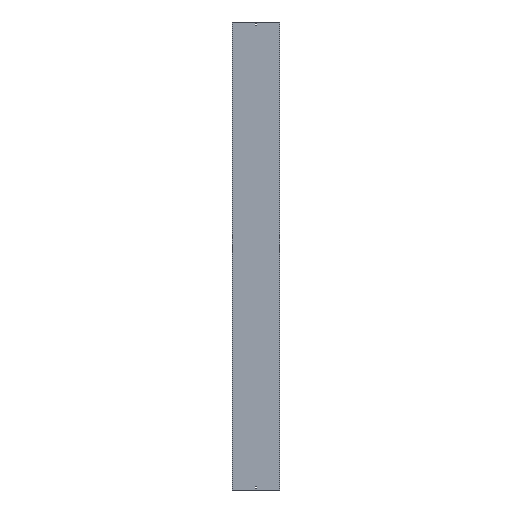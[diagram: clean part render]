
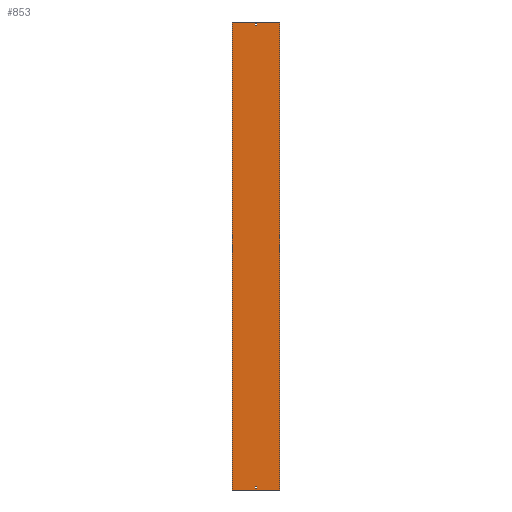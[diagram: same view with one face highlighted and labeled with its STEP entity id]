
A CAD part, front view. The second image highlights one B-rep face of the part: STEP entity #853.
In plain terms, the highlighted planar face has unit normal (0, -1, 0).
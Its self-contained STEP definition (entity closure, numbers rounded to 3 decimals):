
#32 = VERTEX_POINT ( 'NONE', #1611 ) ;
#39 = DIRECTION ( 'NONE',  ( 1., 0., 0. ) ) ;
#41 = VERTEX_POINT ( 'NONE', #81 ) ;
#55 = VECTOR ( 'NONE', #584, 1000. ) ;
#76 = CARTESIAN_POINT ( 'NONE',  ( -152., 0., -1500. ) ) ;
#77 = EDGE_CURVE ( 'NONE', #1106, #32, #1366, .T. ) ;
#81 = CARTESIAN_POINT ( 'NONE',  ( -3.25, 0., 1488. ) ) ;
#101 = DIRECTION ( 'NONE',  ( 0., 0., -1. ) ) ;
#121 = EDGE_CURVE ( 'NONE', #1076, #1117, #347, .T. ) ;
#127 = ORIENTED_EDGE ( 'NONE', *, *, #758, .T. ) ;
#166 = LINE ( 'NONE', #692, #255 ) ;
#184 = LINE ( 'NONE', #854, #1584 ) ;
#185 = FACE_BOUND ( 'NONE', #1478, .T. ) ;
#255 = VECTOR ( 'NONE', #39, 1000. ) ;
#262 = EDGE_CURVE ( 'NONE', #1106, #512, #1159, .T. ) ;
#273 = DIRECTION ( 'NONE',  ( 1., 0., 0. ) ) ;
#288 = VECTOR ( 'NONE', #518, 1000. ) ;
#314 = DIRECTION ( 'NONE',  ( 1., 0., 0. ) ) ;
#319 = FACE_BOUND ( 'NONE', #324, .T. ) ;
#324 = EDGE_LOOP ( 'NONE', ( #494, #485, #1561, #556 ) ) ;
#339 = EDGE_CURVE ( 'NONE', #1232, #679, #166, .T. ) ;
#341 = VERTEX_POINT ( 'NONE', #561 ) ;
#347 = LINE ( 'NONE', #984, #473 ) ;
#369 = ORIENTED_EDGE ( 'NONE', *, *, #77, .T. ) ;
#374 = CARTESIAN_POINT ( 'NONE',  ( 3.25, 0., -1488. ) ) ;
#378 = ORIENTED_EDGE ( 'NONE', *, *, #543, .T. ) ;
#390 = VECTOR ( 'NONE', #847, 1000. ) ;
#414 = CARTESIAN_POINT ( 'NONE',  ( 3.25, 0., -1479. ) ) ;
#470 = VERTEX_POINT ( 'NONE', #1626 ) ;
#473 = VECTOR ( 'NONE', #1514, 1000. ) ;
#478 = EDGE_CURVE ( 'NONE', #512, #470, #1365, .T. ) ;
#485 = ORIENTED_EDGE ( 'NONE', *, *, #1484, .F. ) ;
#494 = ORIENTED_EDGE ( 'NONE', *, *, #1536, .F. ) ;
#512 = VERTEX_POINT ( 'NONE', #707 ) ;
#518 = DIRECTION ( 'NONE',  ( -1., 0., 0. ) ) ;
#525 = CARTESIAN_POINT ( 'NONE',  ( -3.25, 0., -1488. ) ) ;
#543 = EDGE_CURVE ( 'NONE', #679, #574, #1283, .T. ) ;
#556 = ORIENTED_EDGE ( 'NONE', *, *, #121, .F. ) ;
#561 = CARTESIAN_POINT ( 'NONE',  ( -3.25, 0., 1479. ) ) ;
#574 = VERTEX_POINT ( 'NONE', #644 ) ;
#578 = CARTESIAN_POINT ( 'NONE',  ( -3.25, 0., -1479. ) ) ;
#583 = LINE ( 'NONE', #1607, #1531 ) ;
#584 = DIRECTION ( 'NONE',  ( 0., 0., -1. ) ) ;
#589 = LINE ( 'NONE', #1100, #288 ) ;
#590 = DIRECTION ( 'NONE',  ( 0., 0., -1. ) ) ;
#644 = CARTESIAN_POINT ( 'NONE',  ( 3.25, 0., -1488. ) ) ;
#675 = CARTESIAN_POINT ( 'NONE',  ( 3.25, 0., 1488. ) ) ;
#679 = VERTEX_POINT ( 'NONE', #414 ) ;
#687 = AXIS2_PLACEMENT_3D ( 'NONE', #1344, #705, #1482 ) ;
#692 = CARTESIAN_POINT ( 'NONE',  ( -3.25, 0., -1479. ) ) ;
#705 = DIRECTION ( 'NONE',  ( 0., 1., 0. ) ) ;
#707 = CARTESIAN_POINT ( 'NONE',  ( 152., 0., 1500. ) ) ;
#732 = LINE ( 'NONE', #76, #390 ) ;
#735 = LINE ( 'NONE', #983, #928 ) ;
#758 = EDGE_CURVE ( 'NONE', #32, #470, #732, .T. ) ;
#794 = EDGE_CURVE ( 'NONE', #1117, #41, #1244, .T. ) ;
#830 = PLANE ( 'NONE',  #687 ) ;
#847 = DIRECTION ( 'NONE',  ( 1., 0., 0. ) ) ;
#853 = ADVANCED_FACE ( 'NONE', ( #955, #319, #185 ), #830, .F. ) ;
#854 = CARTESIAN_POINT ( 'NONE',  ( -3.25, 0., -1488. ) ) ;
#892 = EDGE_CURVE ( 'NONE', #574, #920, #589, .T. ) ;
#920 = VERTEX_POINT ( 'NONE', #525 ) ;
#922 = CARTESIAN_POINT ( 'NONE',  ( -152., 0., 1500. ) ) ;
#928 = VECTOR ( 'NONE', #590, 1000. ) ;
#955 = FACE_OUTER_BOUND ( 'NONE', #1109, .T. ) ;
#973 = CARTESIAN_POINT ( 'NONE',  ( 152., 0., 1500. ) ) ;
#983 = CARTESIAN_POINT ( 'NONE',  ( -3.25, 0., 1488. ) ) ;
#984 = CARTESIAN_POINT ( 'NONE',  ( 3.25, 0., 1488. ) ) ;
#1005 = VECTOR ( 'NONE', #1272, 1000. ) ;
#1076 = VERTEX_POINT ( 'NONE', #1326 ) ;
#1085 = VECTOR ( 'NONE', #273, 1000. ) ;
#1100 = CARTESIAN_POINT ( 'NONE',  ( -3.25, 0., -1488. ) ) ;
#1106 = VERTEX_POINT ( 'NONE', #922 ) ;
#1109 = EDGE_LOOP ( 'NONE', ( #127, #1179, #1144, #369 ) ) ;
#1117 = VERTEX_POINT ( 'NONE', #675 ) ;
#1144 = ORIENTED_EDGE ( 'NONE', *, *, #262, .F. ) ;
#1159 = LINE ( 'NONE', #1299, #1085 ) ;
#1179 = ORIENTED_EDGE ( 'NONE', *, *, #478, .F. ) ;
#1186 = EDGE_CURVE ( 'NONE', #920, #1232, #184, .T. ) ;
#1227 = DIRECTION ( 'NONE',  ( 0., 0., 1. ) ) ;
#1232 = VERTEX_POINT ( 'NONE', #578 ) ;
#1244 = LINE ( 'NONE', #1510, #1527 ) ;
#1258 = CARTESIAN_POINT ( 'NONE',  ( -152., 0., 1500. ) ) ;
#1272 = DIRECTION ( 'NONE',  ( 0., 0., -1. ) ) ;
#1275 = VECTOR ( 'NONE', #101, 1000. ) ;
#1283 = LINE ( 'NONE', #374, #1005 ) ;
#1299 = CARTESIAN_POINT ( 'NONE',  ( -152., 0., 1500. ) ) ;
#1326 = CARTESIAN_POINT ( 'NONE',  ( 3.25, 0., 1479. ) ) ;
#1344 = CARTESIAN_POINT ( 'NONE',  ( -152., 0., 1500. ) ) ;
#1360 = ORIENTED_EDGE ( 'NONE', *, *, #1186, .T. ) ;
#1365 = LINE ( 'NONE', #973, #1275 ) ;
#1366 = LINE ( 'NONE', #1258, #55 ) ;
#1403 = ORIENTED_EDGE ( 'NONE', *, *, #339, .T. ) ;
#1478 = EDGE_LOOP ( 'NONE', ( #1360, #1403, #378, #1628 ) ) ;
#1482 = DIRECTION ( 'NONE',  ( -1., 0., 0. ) ) ;
#1484 = EDGE_CURVE ( 'NONE', #41, #341, #735, .T. ) ;
#1501 = DIRECTION ( 'NONE',  ( -1., 0., 0. ) ) ;
#1510 = CARTESIAN_POINT ( 'NONE',  ( -3.25, 0., 1488. ) ) ;
#1514 = DIRECTION ( 'NONE',  ( 0., 0., 1. ) ) ;
#1527 = VECTOR ( 'NONE', #1501, 1000. ) ;
#1531 = VECTOR ( 'NONE', #314, 1000. ) ;
#1536 = EDGE_CURVE ( 'NONE', #341, #1076, #583, .T. ) ;
#1561 = ORIENTED_EDGE ( 'NONE', *, *, #794, .F. ) ;
#1584 = VECTOR ( 'NONE', #1227, 1000. ) ;
#1607 = CARTESIAN_POINT ( 'NONE',  ( -3.25, 0., 1479. ) ) ;
#1611 = CARTESIAN_POINT ( 'NONE',  ( -152., 0., -1500. ) ) ;
#1626 = CARTESIAN_POINT ( 'NONE',  ( 152., 0., -1500. ) ) ;
#1628 = ORIENTED_EDGE ( 'NONE', *, *, #892, .T. ) ;
